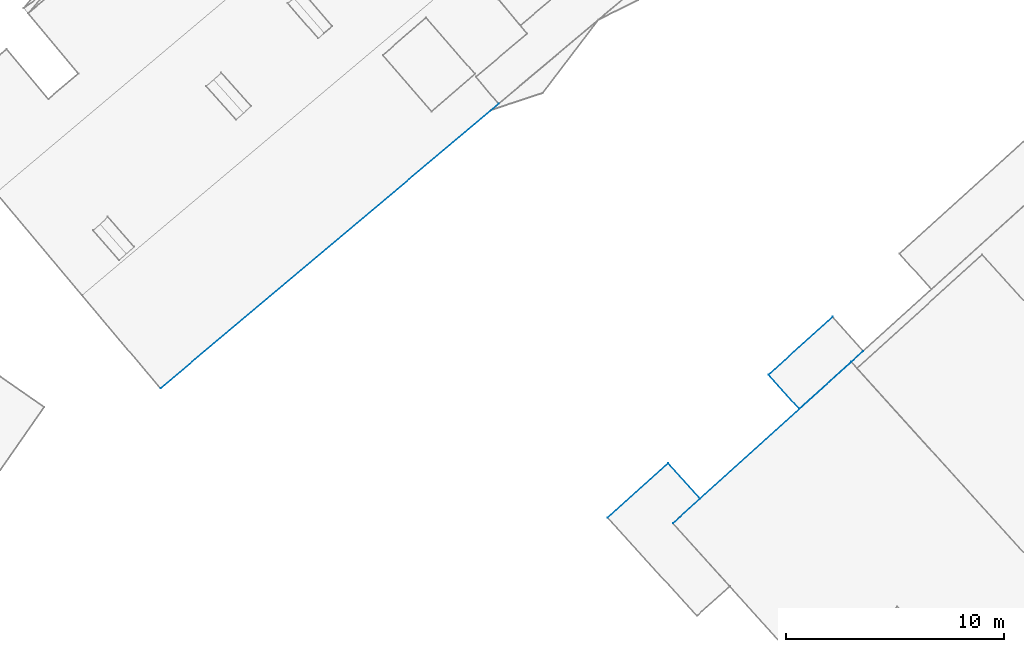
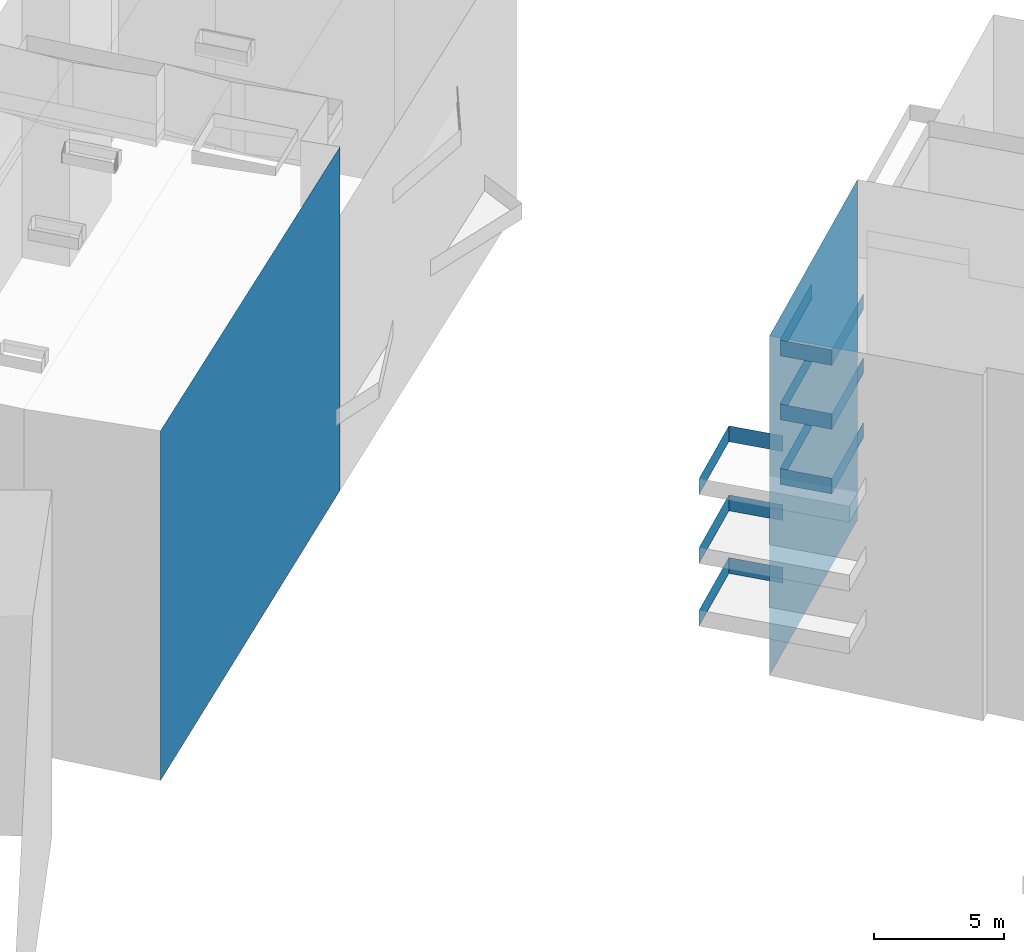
# Not in any storey, part 13 of 136: 32 walls.
"""IFC4 building model written with IfcOpenShell, lengths in metres."""

from ifc_helpers import new_model, entity, si_unit, converted_unit, origin, place, context, subcontext, project, spatial, face_set, surface_model, element, save


model = new_model("IFC4")

# Units and contexts
model_context = context("Model", 3, precision=1e-05, world=origin())
body_context = subcontext(model_context, "Body", "Model", "MODEL_VIEW")
ifc_project = project(units=[converted_unit("PLANEANGLEUNIT", "DEGREE", entity("IfcRatioMeasure", 0.0174532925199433), si_unit("PLANEANGLEUNIT", "RADIAN"), dimensions=[0, 0, 0, 0, 0, 0, 0]), si_unit("AREAUNIT", "SQUARE_METRE"), si_unit("LENGTHUNIT", "METRE")], contexts=[model_context])

# Site, building
site_placement = place(None, origin())
site = spatial("IfcSite", under=ifc_project, at=site_placement, Name="_site")
building_1_placement = place(site_placement, origin())
building_1 = spatial("IfcBuilding", under=site, at=building_1_placement, Name="_building")

# Wall
wall_1_placement = place(building_1_placement, origin())
element("IfcWall", 1, at=wall_1_placement, inside=building_1, Name="Wall", PredefinedType="NOTDEFINED", context=body_context, shape_type="SurfaceModel", body=[
    surface_model("IfcFaceBasedSurfaceModel", [(54.7, 59.43, 54.41), (39.21, 46.4, 54.41), (39.21, 46.4, 37.985), (54.7, 59.43, 38.276)], [face_set([[[0, 1, 2, 3]]])]),
])

# Building
building_2_placement = place(site_placement, origin())
building_2 = spatial("IfcBuilding", under=site, at=building_2_placement, Name="_building")

# Walls
wall_2_placement = place(building_2_placement, origin())
element("IfcWall", 2, at=wall_2_placement, inside=building_2, Name="Wall", PredefinedType="NOTDEFINED", context=body_context, shape_type="SurfaceModel", body=[
    surface_model("IfcFaceBasedSurfaceModel", [(62.46, 42.97, 41.65), (63.93, 41.351, 41.65), (63.93, 41.351, 42.4), (62.46, 42.97, 42.4)], [face_set([[[0, 1, 2, 3]]])]),
])
wall_3_placement = place(building_2_placement, origin())
element("IfcWall", 3, at=wall_3_placement, inside=building_2, Name="Wall", PredefinedType="NOTDEFINED", context=body_context, shape_type="SurfaceModel", body=[
    surface_model("IfcFaceBasedSurfaceModel", [(59.7, 40.48, 41.65), (62.46, 42.97, 41.65), (62.46, 42.97, 42.4), (59.7, 40.48, 42.4)], [face_set([[[0, 1, 2, 3]]])]),
])
wall_4_placement = place(building_2_placement, origin())
element("IfcWall", 4, at=wall_4_placement, inside=building_2, Name="Wall", PredefinedType="NOTDEFINED", context=body_context, shape_type="SurfaceModel", body=[
    surface_model("IfcFaceBasedSurfaceModel", [(62.46, 42.97, 41.65), (63.93, 41.351, 41.65), (63.93, 41.351, 42.4), (62.46, 42.97, 42.4)], [face_set([[[0, 1, 2, 3]]])]),
])
wall_5_placement = place(building_2_placement, origin())
element("IfcWall", 5, at=wall_5_placement, inside=building_2, Name="Wall", PredefinedType="NOTDEFINED", context=body_context, shape_type="SurfaceModel", body=[
    surface_model("IfcFaceBasedSurfaceModel", [(59.7, 40.48, 41.65), (62.46, 42.97, 41.65), (62.46, 42.97, 42.4), (59.7, 40.48, 42.4)], [face_set([[[0, 1, 2, 3]]])]),
])
wall_6_placement = place(building_2_placement, origin())
element("IfcWall", 6, at=wall_6_placement, inside=building_2, Name="Wall", PredefinedType="NOTDEFINED", context=body_context, shape_type="SurfaceModel", body=[
    surface_model("IfcFaceBasedSurfaceModel", [(62.46, 42.97, 47.83), (63.93, 41.351, 47.83), (63.93, 41.351, 48.58), (62.46, 42.97, 48.58)], [face_set([[[0, 1, 2, 3]]])]),
])
wall_7_placement = place(building_2_placement, origin())
element("IfcWall", 7, at=wall_7_placement, inside=building_2, Name="Wall", PredefinedType="NOTDEFINED", context=body_context, shape_type="SurfaceModel", body=[
    surface_model("IfcFaceBasedSurfaceModel", [(59.7, 40.48, 47.83), (62.46, 42.97, 47.83), (62.46, 42.97, 48.58), (59.7, 40.48, 48.58)], [face_set([[[0, 1, 2, 3]]])]),
])
wall_8_placement = place(building_2_placement, origin())
element("IfcWall", 8, at=wall_8_placement, inside=building_2, Name="Wall", PredefinedType="NOTDEFINED", context=body_context, shape_type="SurfaceModel", body=[
    surface_model("IfcFaceBasedSurfaceModel", [(62.46, 42.97, 47.83), (63.93, 41.351, 47.83), (63.93, 41.351, 48.58), (62.46, 42.97, 48.58)], [face_set([[[0, 1, 2, 3]]])]),
])
wall_9_placement = place(building_2_placement, origin())
element("IfcWall", 9, at=wall_9_placement, inside=building_2, Name="Wall", PredefinedType="NOTDEFINED", context=body_context, shape_type="SurfaceModel", body=[
    surface_model("IfcFaceBasedSurfaceModel", [(59.7, 40.48, 47.83), (62.46, 42.97, 47.83), (62.46, 42.97, 48.58), (59.7, 40.48, 48.58)], [face_set([[[0, 1, 2, 3]]])]),
])
wall_10_placement = place(building_2_placement, origin())
element("IfcWall", 10, at=wall_10_placement, inside=building_2, Name="Wall", PredefinedType="NOTDEFINED", context=body_context, shape_type="SurfaceModel", body=[
    surface_model("IfcFaceBasedSurfaceModel", [(62.46, 42.97, 44.59), (63.93, 41.351, 44.59), (63.93, 41.351, 45.34), (62.46, 42.97, 45.34)], [face_set([[[0, 1, 2, 3]]])]),
])
wall_11_placement = place(building_2_placement, origin())
element("IfcWall", 11, at=wall_11_placement, inside=building_2, Name="Wall", PredefinedType="NOTDEFINED", context=body_context, shape_type="SurfaceModel", body=[
    surface_model("IfcFaceBasedSurfaceModel", [(59.7, 40.48, 44.59), (62.46, 42.97, 44.59), (62.46, 42.97, 45.34), (59.7, 40.48, 45.34)], [face_set([[[0, 1, 2, 3]]])]),
])
wall_12_placement = place(building_2_placement, origin())
element("IfcWall", 12, at=wall_12_placement, inside=building_2, Name="Wall", PredefinedType="NOTDEFINED", context=body_context, shape_type="SurfaceModel", body=[
    surface_model("IfcFaceBasedSurfaceModel", [(62.46, 42.97, 44.59), (63.93, 41.351, 44.59), (63.93, 41.351, 45.34), (62.46, 42.97, 45.34)], [face_set([[[0, 1, 2, 3]]])]),
])
wall_13_placement = place(building_2_placement, origin())
element("IfcWall", 13, at=wall_13_placement, inside=building_2, Name="Wall", PredefinedType="NOTDEFINED", context=body_context, shape_type="SurfaceModel", body=[
    surface_model("IfcFaceBasedSurfaceModel", [(59.7, 40.48, 44.59), (62.46, 42.97, 44.59), (62.46, 42.97, 45.34), (59.7, 40.48, 45.34)], [face_set([[[0, 1, 2, 3]]])]),
])
wall_14_placement = place(building_2_placement, origin())
element("IfcWall", 14, at=wall_14_placement, inside=building_2, Name="Wall", PredefinedType="NOTDEFINED", context=body_context, shape_type="SurfaceModel", body=[
    surface_model("IfcFaceBasedSurfaceModel", [(71.4, 48.11, 41.76), (68.47, 45.46, 41.76), (68.47, 45.46, 42.51), (71.4, 48.11, 42.51)], [face_set([[[0, 1, 2, 3]]])]),
])
wall_15_placement = place(building_2_placement, origin())
element("IfcWall", 15, at=wall_15_placement, inside=building_2, Name="Wall", PredefinedType="NOTDEFINED", context=body_context, shape_type="SurfaceModel", body=[
    surface_model("IfcFaceBasedSurfaceModel", [(67.06, 47.021, 41.76), (69.99, 49.67, 41.76), (69.99, 49.67, 42.51), (67.06, 47.021, 42.51)], [face_set([[[0, 1, 2, 3]]])]),
])
wall_16_placement = place(building_2_placement, origin())
element("IfcWall", 16, at=wall_16_placement, inside=building_2, Name="Wall", PredefinedType="NOTDEFINED", context=body_context, shape_type="SurfaceModel", body=[
    surface_model("IfcFaceBasedSurfaceModel", [(68.47, 45.46, 41.76), (67.06, 47.021, 41.76), (67.06, 47.021, 42.51), (68.47, 45.46, 42.51)], [face_set([[[0, 1, 2, 3]]])]),
])
wall_17_placement = place(building_2_placement, origin())
element("IfcWall", 17, at=wall_17_placement, inside=building_2, Name="Wall", PredefinedType="NOTDEFINED", context=body_context, shape_type="SurfaceModel", body=[
    surface_model("IfcFaceBasedSurfaceModel", [(71.4, 48.11, 41.76), (68.47, 45.46, 41.76), (68.47, 45.46, 42.51), (71.4, 48.11, 42.51)], [face_set([[[0, 1, 2, 3]]])]),
])
wall_18_placement = place(building_2_placement, origin())
element("IfcWall", 18, at=wall_18_placement, inside=building_2, Name="Wall", PredefinedType="NOTDEFINED", context=body_context, shape_type="SurfaceModel", body=[
    surface_model("IfcFaceBasedSurfaceModel", [(67.06, 47.021, 41.76), (69.99, 49.67, 41.76), (69.99, 49.67, 42.51), (67.06, 47.021, 42.51)], [face_set([[[0, 1, 2, 3]]])]),
])
wall_19_placement = place(building_2_placement, origin())
element("IfcWall", 19, at=wall_19_placement, inside=building_2, Name="Wall", PredefinedType="NOTDEFINED", context=body_context, shape_type="SurfaceModel", body=[
    surface_model("IfcFaceBasedSurfaceModel", [(68.47, 45.46, 41.76), (67.06, 47.021, 41.76), (67.06, 47.021, 42.51), (68.47, 45.46, 42.51)], [face_set([[[0, 1, 2, 3]]])]),
])
wall_20_placement = place(building_2_placement, origin())
element("IfcWall", 20, at=wall_20_placement, inside=building_2, Name="Wall", PredefinedType="NOTDEFINED", context=body_context, shape_type="SurfaceModel", body=[
    surface_model("IfcFaceBasedSurfaceModel", [(71.4, 48.11, 44.79), (68.47, 45.46, 44.79), (68.47, 45.46, 45.54), (71.4, 48.11, 45.54)], [face_set([[[0, 1, 2, 3]]])]),
])
wall_21_placement = place(building_2_placement, origin())
element("IfcWall", 21, at=wall_21_placement, inside=building_2, Name="Wall", PredefinedType="NOTDEFINED", context=body_context, shape_type="SurfaceModel", body=[
    surface_model("IfcFaceBasedSurfaceModel", [(67.06, 47.021, 44.79), (69.99, 49.67, 44.79), (69.99, 49.67, 45.54), (67.06, 47.021, 45.54)], [face_set([[[0, 1, 2, 3]]])]),
])
wall_22_placement = place(building_2_placement, origin())
element("IfcWall", 22, at=wall_22_placement, inside=building_2, Name="Wall", PredefinedType="NOTDEFINED", context=body_context, shape_type="SurfaceModel", body=[
    surface_model("IfcFaceBasedSurfaceModel", [(68.47, 45.46, 44.79), (67.06, 47.021, 44.79), (67.06, 47.021, 45.54), (68.47, 45.46, 45.54)], [face_set([[[0, 1, 2, 3]]])]),
])
wall_23_placement = place(building_2_placement, origin())
element("IfcWall", 23, at=wall_23_placement, inside=building_2, Name="Wall", PredefinedType="NOTDEFINED", context=body_context, shape_type="SurfaceModel", body=[
    surface_model("IfcFaceBasedSurfaceModel", [(71.4, 48.11, 44.79), (68.47, 45.46, 44.79), (68.47, 45.46, 45.54), (71.4, 48.11, 45.54)], [face_set([[[0, 1, 2, 3]]])]),
])
wall_24_placement = place(building_2_placement, origin())
element("IfcWall", 24, at=wall_24_placement, inside=building_2, Name="Wall", PredefinedType="NOTDEFINED", context=body_context, shape_type="SurfaceModel", body=[
    surface_model("IfcFaceBasedSurfaceModel", [(67.06, 47.021, 44.79), (69.99, 49.67, 44.79), (69.99, 49.67, 45.54), (67.06, 47.021, 45.54)], [face_set([[[0, 1, 2, 3]]])]),
])
wall_25_placement = place(building_2_placement, origin())
element("IfcWall", 25, at=wall_25_placement, inside=building_2, Name="Wall", PredefinedType="NOTDEFINED", context=body_context, shape_type="SurfaceModel", body=[
    surface_model("IfcFaceBasedSurfaceModel", [(68.47, 45.46, 44.79), (67.06, 47.021, 44.79), (67.06, 47.021, 45.54), (68.47, 45.46, 45.54)], [face_set([[[0, 1, 2, 3]]])]),
])
wall_26_placement = place(building_2_placement, origin())
element("IfcWall", 26, at=wall_26_placement, inside=building_2, Name="Wall", PredefinedType="NOTDEFINED", context=body_context, shape_type="SurfaceModel", body=[
    surface_model("IfcFaceBasedSurfaceModel", [(62.68, 40.22, 54.39), (70.85, 47.61, 54.39), (70.85, 47.61, 38.409), (62.68, 40.22, 38.448)], [face_set([[[0, 1, 2, 3]]])]),
])
wall_27_placement = place(building_2_placement, origin())
element("IfcWall", 27, at=wall_27_placement, inside=building_2, Name="Wall", PredefinedType="NOTDEFINED", context=body_context, shape_type="SurfaceModel", body=[
    surface_model("IfcFaceBasedSurfaceModel", [(71.4, 48.11, 47.79), (68.47, 45.46, 47.79), (68.47, 45.46, 48.54), (71.4, 48.11, 48.54)], [face_set([[[0, 1, 2, 3]]])]),
])
wall_28_placement = place(building_2_placement, origin())
element("IfcWall", 28, at=wall_28_placement, inside=building_2, Name="Wall", PredefinedType="NOTDEFINED", context=body_context, shape_type="SurfaceModel", body=[
    surface_model("IfcFaceBasedSurfaceModel", [(67.06, 47.021, 47.79), (69.99, 49.67, 47.79), (69.99, 49.67, 48.54), (67.06, 47.021, 48.54)], [face_set([[[0, 1, 2, 3]]])]),
])
wall_29_placement = place(building_2_placement, origin())
element("IfcWall", 29, at=wall_29_placement, inside=building_2, Name="Wall", PredefinedType="NOTDEFINED", context=body_context, shape_type="SurfaceModel", body=[
    surface_model("IfcFaceBasedSurfaceModel", [(68.47, 45.46, 47.79), (67.06, 47.021, 47.79), (67.06, 47.021, 48.54), (68.47, 45.46, 48.54)], [face_set([[[0, 1, 2, 3]]])]),
])
wall_30_placement = place(building_2_placement, origin())
element("IfcWall", 30, at=wall_30_placement, inside=building_2, Name="Wall", PredefinedType="NOTDEFINED", context=body_context, shape_type="SurfaceModel", body=[
    surface_model("IfcFaceBasedSurfaceModel", [(71.4, 48.11, 47.79), (68.47, 45.46, 47.79), (68.47, 45.46, 48.54), (71.4, 48.11, 48.54)], [face_set([[[0, 1, 2, 3]]])]),
])
wall_31_placement = place(building_2_placement, origin())
element("IfcWall", 31, at=wall_31_placement, inside=building_2, Name="Wall", PredefinedType="NOTDEFINED", context=body_context, shape_type="SurfaceModel", body=[
    surface_model("IfcFaceBasedSurfaceModel", [(67.06, 47.021, 47.79), (69.99, 49.67, 47.79), (69.99, 49.67, 48.54), (67.06, 47.021, 48.54)], [face_set([[[0, 1, 2, 3]]])]),
])
wall_32_placement = place(building_2_placement, origin())
element("IfcWall", 32, at=wall_32_placement, inside=building_2, Name="Wall", PredefinedType="NOTDEFINED", context=body_context, shape_type="SurfaceModel", body=[
    surface_model("IfcFaceBasedSurfaceModel", [(68.47, 45.46, 47.79), (67.06, 47.021, 47.79), (67.06, 47.021, 48.54), (68.47, 45.46, 48.54)], [face_set([[[0, 1, 2, 3]]])]),
])

save(model, "model.ifc")
